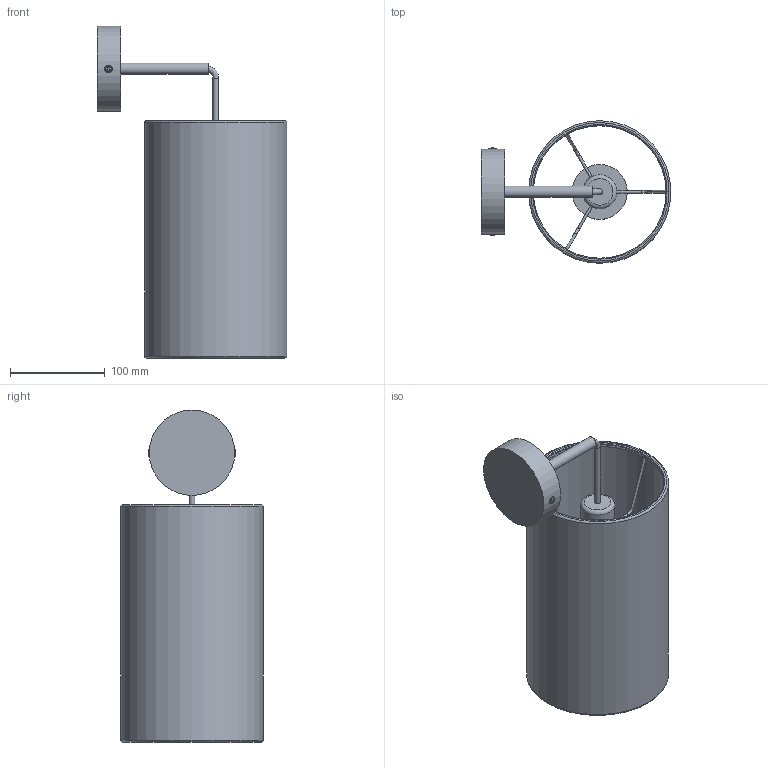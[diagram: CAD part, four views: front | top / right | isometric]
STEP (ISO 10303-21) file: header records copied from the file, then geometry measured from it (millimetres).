
FILE_DESCRIPTION(/* description */ (''),/* implementation_level */ '2;1');
FILE_NAME(/* name */ 'C:/Users/Jakub Wieczorkowski/Desktop/STEP/TERCINO_6124 v5 v2 v1.step',/* time_stamp */ '2022-02-22T08:21:05+01:00',/* author */ (''),/* organization */ (''),/* preprocessor_version */ 'ST-DEVELOPER v18.1',/* originating_system */ 'Autodesk Translation Framework v10.13.0.1454',/* authorisation */ '');
FILE_SCHEMA (('AUTOMOTIVE_DESIGN { 1 0 10303 214 3 1 1 }'));
Length unit declared in the file: millimetre
Products named in the file (5): TERCINO_6124 v5 v2; TERCINO_6124_MOCOWANIE v3; TERCINO_OPRAWA_ZWIS v2; SRUBA TERCINO v1; SRUBA TERCINO v1(Mirror)
Assembly tree (4 placements, depth 2):
  TERCINO_6124 v5 v2
    TERCINO_6124_MOCOWANIE v3
    TERCINO_OPRAWA_ZWIS v2
    SRUBA TERCINO v1
    SRUBA TERCINO v1(Mirror)
Bounding box: 200 x 150 x 349.97 mm (x, y, z)
Volume: 472649.6 mm3; surface area: 300676.4 mm2
Topology: 21 solids, 21 shells, 501 faces, 1196 edges, 739 vertices
Faces by surface type: bspline 204, plane 175, cylinder 101, torus 11, sphere 10
Full cylindrical faces by diameter (mm): 3 x6, 4 x6, 6 x2, 8 x2, 9.911 x1, 11.911 x1, 34.939 x1, 36 x1, 42 x1, 58 x1, 90 x1, 140 x2, 146 x1, 150 x1
Entity records: 28414 total; most frequent: CARTESIAN_POINT 18561, ORIENTED_EDGE 2392, DIRECTION 1293, EDGE_CURVE 1196, VERTEX_POINT 739, B_SPLINE_CURVE_WITH_KNOTS 689, EDGE_LOOP 517, FACE_OUTER_BOUND 501
